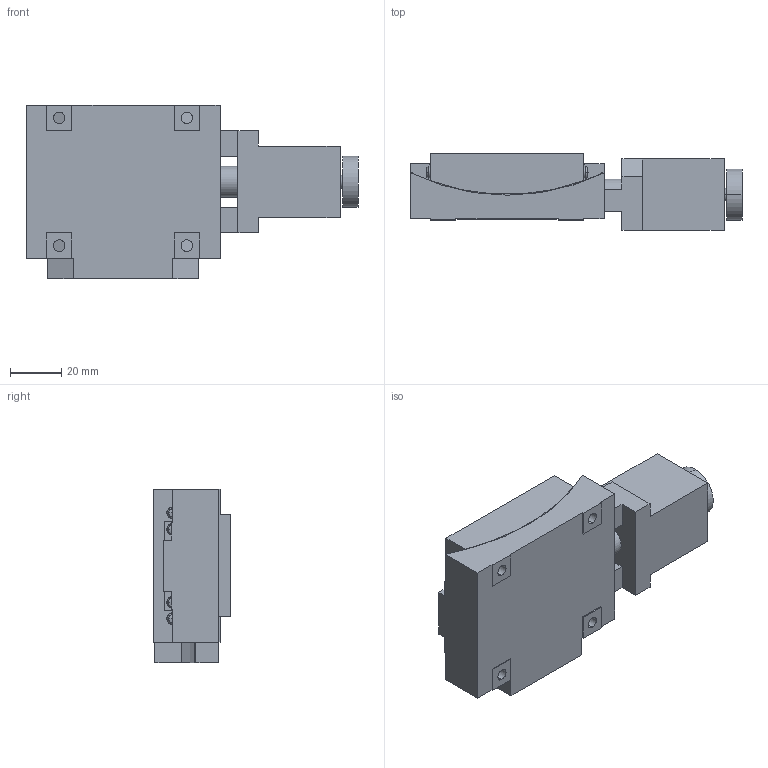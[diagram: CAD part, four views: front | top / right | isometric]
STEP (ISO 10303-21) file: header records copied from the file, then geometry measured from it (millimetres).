
FILE_DESCRIPTION (( 'STEP AP203' ), '1' );
FILE_NAME ('ATS-C616B-HM.STEP', '2013-08-06T00:37:03', ( '' ), ( '' ), 'SwSTEP 2.0', 'SolidWorks 2011', '' );
FILE_SCHEMA (( 'CONFIG_CONTROL_DESIGN' ));
Length unit declared in the file: millimetre
Products named in the file (3): ATS-C616B-HM; ATS-C616B-HM-1; ATS-C616B-HM-2
Assembly tree (2 placements, depth 2):
  ATS-C616B-HM
    ATS-C616B-HM-1
    ATS-C616B-HM-2
Bounding box: 130 x 30 x 68 mm (x, y, z)
Volume: 153563.7 mm3; surface area: 36772.5 mm2
Topology: 2 solids, 2 shells, 214 faces, 540 edges, 344 vertices
Faces by surface type: plane 88, cylinder 70, cone 24, torus 24, sphere 8
Entity records: 7221 total; most frequent: CARTESIAN_POINT 1655, DIRECTION 1150, ORIENTED_EDGE 1056, EDGE_CURVE 528, AXIS2_PLACEMENT_3D 435, VERTEX_POINT 344, LINE 280, VECTOR 280
